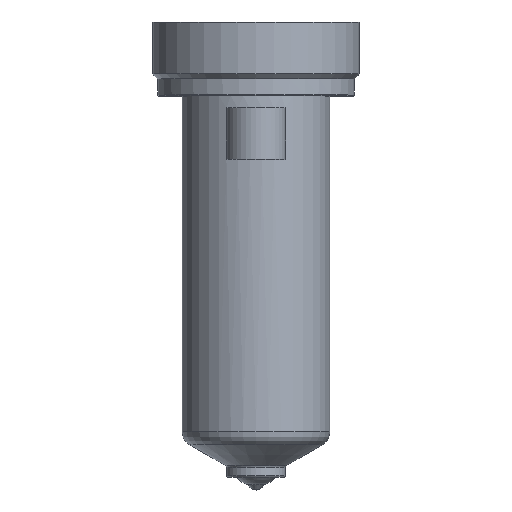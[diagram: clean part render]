
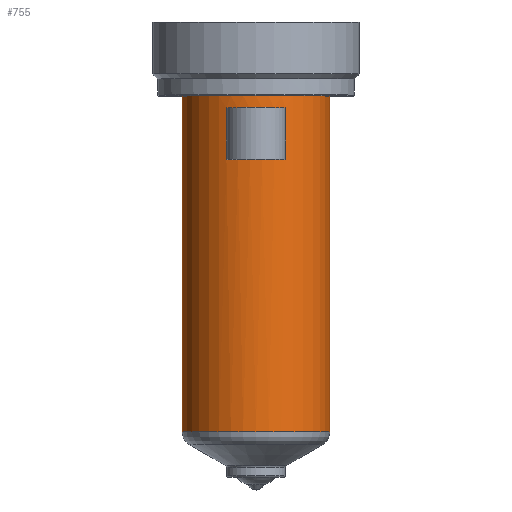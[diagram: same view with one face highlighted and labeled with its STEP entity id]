
A CAD part, top view. The second image highlights one B-rep face of the part: STEP entity #755.
In plain terms, the highlighted cylindrical face has radius 15 mm (diameter 30 mm), a partial arc.
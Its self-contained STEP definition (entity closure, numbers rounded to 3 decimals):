
#161=DIRECTION('',(0.,-1.,0.));
#162=VECTOR('',#161,68.226);
#163=CARTESIAN_POINT('',(15.,0.,0.));
#164=LINE('',#163,#162);
#165=CARTESIAN_POINT('',(0.,-68.226,0.));
#166=DIRECTION('',(0.,1.,0.));
#167=DIRECTION('',(-1.,0.,0.));
#168=AXIS2_PLACEMENT_3D('',#165,#166,#167);
#170=DIRECTION('',(0.,1.,0.));
#171=VECTOR('',#170,68.226);
#172=CARTESIAN_POINT('',(-15.,-68.226,0.));
#173=LINE('',#172,#171);
#174=CARTESIAN_POINT('',(0.,0.,0.));
#175=DIRECTION('',(0.,1.,0.));
#176=DIRECTION('',(-1.,0.,0.));
#177=AXIS2_PLACEMENT_3D('',#174,#175,#176);
#341=DIRECTION('',(0.,-1.,0.));
#342=VECTOR('',#341,10.5);
#343=CARTESIAN_POINT('',(-6.,-2.5,13.748));
#344=LINE('',#343,#342);
#353=CARTESIAN_POINT('',(0.,-13.,0.));
#354=DIRECTION('',(0.,1.,0.));
#355=DIRECTION('',(-0.4,0.,0.917));
#356=AXIS2_PLACEMENT_3D('',#353,#354,#355);
#367=DIRECTION('',(0.,-1.,0.));
#368=VECTOR('',#367,10.5);
#369=CARTESIAN_POINT('',(6.,-2.5,13.748));
#370=LINE('',#369,#368);
#388=CARTESIAN_POINT('',(0.,-2.5,0.));
#389=DIRECTION('',(0.,-1.,0.));
#390=DIRECTION('',(0.4,0.,0.917));
#391=AXIS2_PLACEMENT_3D('',#388,#389,#390);
#476=CARTESIAN_POINT('',(-15.,0.,0.));
#477=CARTESIAN_POINT('',(15.,0.,0.));
#478=VERTEX_POINT('',#476);
#479=VERTEX_POINT('',#477);
#488=CARTESIAN_POINT('',(6.,-2.5,13.748));
#489=VERTEX_POINT('',#488);
#490=CARTESIAN_POINT('',(-6.,-2.5,13.748));
#491=VERTEX_POINT('',#490);
#500=CARTESIAN_POINT('',(15.,-68.226,0.));
#501=VERTEX_POINT('',#500);
#510=CARTESIAN_POINT('',(-15.,-68.226,0.));
#511=VERTEX_POINT('',#510);
#512=CARTESIAN_POINT('',(6.,-13.,13.748));
#513=VERTEX_POINT('',#512);
#514=CARTESIAN_POINT('',(-6.,-13.,13.748));
#515=VERTEX_POINT('',#514);
#733=CARTESIAN_POINT('',(0.,16.4,0.));
#734=DIRECTION('',(0.,-1.,0.));
#735=DIRECTION('',(-1.,0.,0.));
#736=AXIS2_PLACEMENT_3D('',#733,#734,#735);
#737=CYLINDRICAL_SURFACE('',#736,15.);
#738=ORIENTED_EDGE('',*,*,#727,.T.);
#740=ORIENTED_EDGE('',*,*,#739,.F.);
#741=ORIENTED_EDGE('',*,*,#723,.T.);
#742=ORIENTED_EDGE('',*,*,#713,.T.);
#743=EDGE_LOOP('',(#738,#740,#741,#742));
#744=FACE_OUTER_BOUND('',#743,.F.);
#746=ORIENTED_EDGE('',*,*,#745,.T.);
#748=ORIENTED_EDGE('',*,*,#747,.T.);
#750=ORIENTED_EDGE('',*,*,#749,.F.);
#752=ORIENTED_EDGE('',*,*,#751,.T.);
#753=EDGE_LOOP('',(#746,#748,#750,#752));
#754=FACE_BOUND('',#753,.F.);
#755=ADVANCED_FACE('',(#744,#754),#737,.T.);
#169=CIRCLE('',#168,15.);
#178=CIRCLE('',#177,15.);
#357=CIRCLE('',#356,15.);
#392=CIRCLE('',#391,15.);
#713=EDGE_CURVE('',#478,#479,#178,.T.);
#723=EDGE_CURVE('',#511,#478,#173,.T.);
#727=EDGE_CURVE('',#479,#501,#164,.T.);
#739=EDGE_CURVE('',#511,#501,#169,.T.);
#745=EDGE_CURVE('',#491,#515,#344,.T.);
#747=EDGE_CURVE('',#515,#513,#357,.T.);
#749=EDGE_CURVE('',#489,#513,#370,.T.);
#751=EDGE_CURVE('',#489,#491,#392,.T.);
